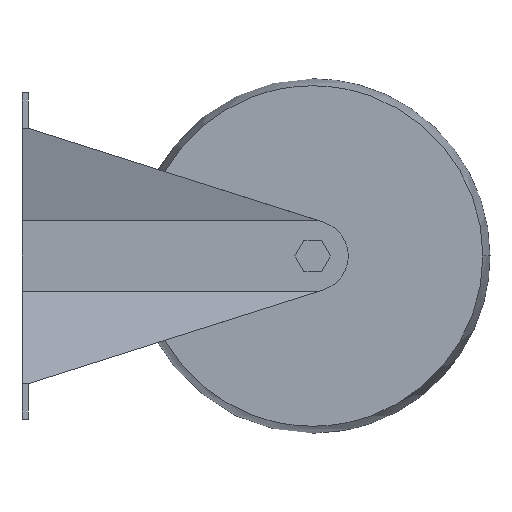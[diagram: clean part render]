
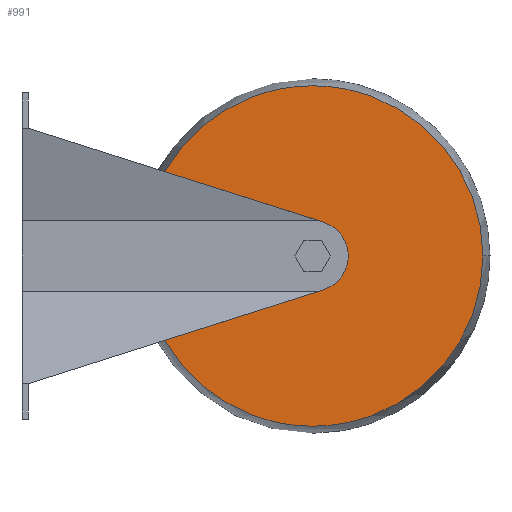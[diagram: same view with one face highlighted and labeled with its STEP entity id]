
A CAD part, left-side view. The second image highlights one B-rep face of the part: STEP entity #991.
In plain terms, the highlighted planar face has unit normal (-1, 0, 0).
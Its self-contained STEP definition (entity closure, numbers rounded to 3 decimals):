
#21 = EDGE_CURVE ( 'NONE', #212, #789, #578, .T. ) ;
#62 = DIRECTION ( 'NONE',  ( 0., 0., -1. ) ) ;
#83 = DIRECTION ( 'NONE',  ( 1., 0., 0. ) ) ;
#117 = ORIENTED_EDGE ( 'NONE', *, *, #138, .T. ) ;
#138 = EDGE_CURVE ( 'NONE', #1498, #543, #586, .T. ) ;
#145 = DIRECTION ( 'NONE',  ( 0., 0., -1. ) ) ;
#212 = VERTEX_POINT ( 'NONE', #804 ) ;
#235 = DIRECTION ( 'NONE',  ( 1., 0., 0. ) ) ;
#236 = ORIENTED_EDGE ( 'NONE', *, *, #337, .T. ) ;
#315 = CARTESIAN_POINT ( 'NONE',  ( -21., -123., 0. ) ) ;
#321 = FACE_OUTER_BOUND ( 'NONE', #1034, .T. ) ;
#337 = EDGE_CURVE ( 'NONE', #789, #1498, #1100, .T. ) ;
#434 = CARTESIAN_POINT ( 'NONE',  ( -21., -123., 0. ) ) ;
#467 = ORIENTED_EDGE ( 'NONE', *, *, #21, .T. ) ;
#481 = EDGE_CURVE ( 'NONE', #1338, #212, #1193, .T. ) ;
#540 = DIRECTION ( 'NONE',  ( 0., 0., 1. ) ) ;
#543 = VERTEX_POINT ( 'NONE', #1479 ) ;
#558 = CARTESIAN_POINT ( 'NONE',  ( -21., -60.43, 35.623 ) ) ;
#577 = AXIS2_PLACEMENT_3D ( 'NONE', #434, #1490, #540 ) ;
#578 = CIRCLE ( 'NONE', #972, 72. ) ;
#586 = LINE ( 'NONE', #967, #1079 ) ;
#615 = CARTESIAN_POINT ( 'NONE',  ( -21., -127.543, -14.296 ) ) ;
#691 = VECTOR ( 'NONE', #1304, 1000. ) ;
#695 = PLANE ( 'NONE',  #1378 ) ;
#751 = ORIENTED_EDGE ( 'NONE', *, *, #481, .T. ) ;
#789 = VERTEX_POINT ( 'NONE', #1372 ) ;
#804 = CARTESIAN_POINT ( 'NONE',  ( -21., -60.43, -35.623 ) ) ;
#951 = CARTESIAN_POINT ( 'NONE',  ( -21., -2.6, -54. ) ) ;
#967 = CARTESIAN_POINT ( 'NONE',  ( -21., -127.543, 14.296 ) ) ;
#969 = AXIS2_PLACEMENT_3D ( 'NONE', #315, #83, #62 ) ;
#972 = AXIS2_PLACEMENT_3D ( 'NONE', #1453, #1219, #1500 ) ;
#991 = ADVANCED_FACE ( 'NONE', ( #321 ), #695, .F. ) ;
#1034 = EDGE_LOOP ( 'NONE', ( #751, #467, #236, #117, #1477 ) ) ;
#1046 = CARTESIAN_POINT ( 'NONE',  ( -21., -123., 0. ) ) ;
#1069 = CIRCLE ( 'NONE', #969, 15. ) ;
#1079 = VECTOR ( 'NONE', #1215, 1000. ) ;
#1100 = CIRCLE ( 'NONE', #577, 72. ) ;
#1193 = LINE ( 'NONE', #951, #691 ) ;
#1215 = DIRECTION ( 'NONE',  ( 0., -0.953, -0.303 ) ) ;
#1219 = DIRECTION ( 'NONE',  ( -1., 0., 0. ) ) ;
#1304 = DIRECTION ( 'NONE',  ( 0., 0.953, -0.303 ) ) ;
#1338 = VERTEX_POINT ( 'NONE', #615 ) ;
#1372 = CARTESIAN_POINT ( 'NONE',  ( -21., -195., 0.001 ) ) ;
#1378 = AXIS2_PLACEMENT_3D ( 'NONE', #1046, #235, #145 ) ;
#1400 = EDGE_CURVE ( 'NONE', #543, #1338, #1069, .T. ) ;
#1453 = CARTESIAN_POINT ( 'NONE',  ( -21., -123., 0. ) ) ;
#1477 = ORIENTED_EDGE ( 'NONE', *, *, #1400, .T. ) ;
#1479 = CARTESIAN_POINT ( 'NONE',  ( -21., -127.543, 14.296 ) ) ;
#1490 = DIRECTION ( 'NONE',  ( -1., 0., 0. ) ) ;
#1498 = VERTEX_POINT ( 'NONE', #558 ) ;
#1500 = DIRECTION ( 'NONE',  ( 0., 0., 1. ) ) ;
